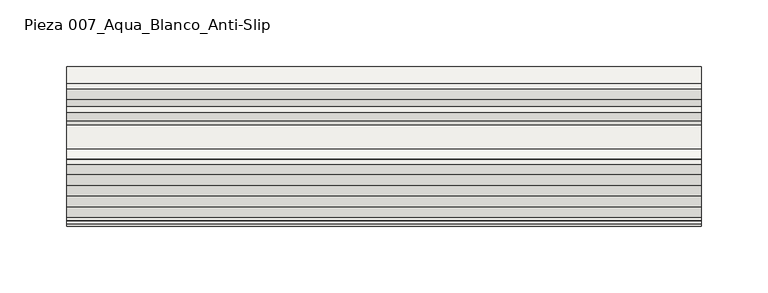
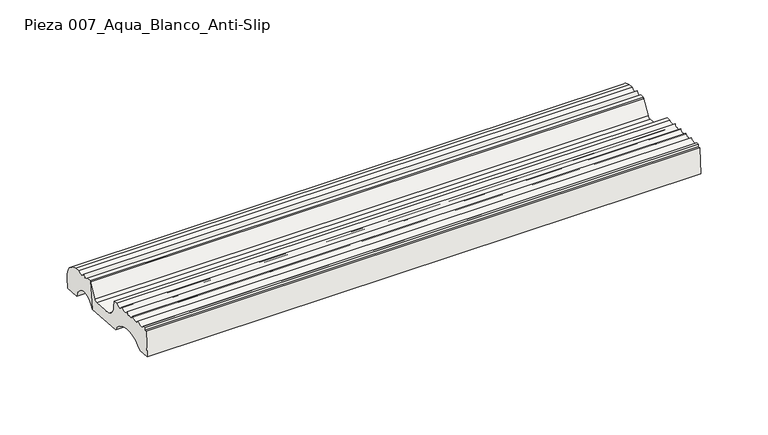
"""IFC4 building model written with IfcOpenShell, lengths in millimetres: slab geometry, ROSA GRES_007 : Pieza 007_Aqua_Blanco_Anti-Slip."""

from ifc_helpers import new_model, si_unit, point, frame, frame_2d, origin, place, context, project, spatial, polyline, circle_curve, trimmed, segment, composite_curve, outline, extrude, source, transform, mapped, element, save


def pieza_007_aqua_blanco_anti_slip_492b38b9(model_context):
    return source(origin(), model_context, "Body", "SweptSolid", [
        extrude(outline(composite_curve([segment(trimmed(circle_curve(frame_2d((-25.9545763, 173.0767428)), 11.6464304), [point((-14.3742659, 174.3159971))], [point((-37.1820416, 176.172444))], True, "CARTESIAN"), True, "CONTINUOUS"), segment(polyline([(-37.1820416, 176.172444), (-33.8762309, 200.4746837), (-29.9345538, 200.1538709)]), True, "CONTINUOUS"), segment(trimmed(circle_curve(frame_2d((-27.3971937, 201.142641)), 2.7232081), [point((-29.9345538, 200.1538709))], [point((-24.7247274, 200.6193952))], True, "CARTESIAN"), True, "CONTINUOUS"), segment(trimmed(circle_curve(frame_2d((-20.3008643, 202.7650351)), 4.9167404), [point((-24.7247274, 200.6193952))], [point((-16.9364731, 199.1796191))], True, "CARTESIAN"), True, "CONTINUOUS"), segment(polyline([(-16.9364731, 199.1796191), (-12.7748841, 198.875801)]), True, "CONTINUOUS"), segment(trimmed(circle_curve(frame_2d((-15.1536138, 183.7870899)), 15.2750633), [point((-12.7748841, 198.875801))], [point((0.0710994, 182.547869))], False, "CARTESIAN"), True, "CONTINUOUS"), segment(polyline([(0.0710994, 182.547869), (-0.6896004, 173.202129), (-14.3742659, 174.3159971)]), True, "CONTINUOUS")], self_intersect=False)), frame((0.0, 0.0, 0.0), z_axis=(1.0, 0.0, 0.0), x_axis=(0.0, 1.0, 0.0)), (0.0, 0.0, 1.0), 475.4755445),
        extrude(outline(composite_curve([segment(trimmed(circle_curve(frame_2d((-91.1625174, 167.3774726)), 22.5372595), [point((-71.8498608, 178.9942432))], [point((-108.342302, 181.9645582))], True, "CARTESIAN"), True, "CONTINUOUS"), segment(polyline([(-108.342302, 181.9645582), (-119.2900344, 182.8556525), (-117.4809059, 205.0820876), (-115.5338707, 204.9236084), (-115.3491545, 207.1930072), (-113.0660814, 207.0070959)]), True, "CONTINUOUS"), segment(trimmed(circle_curve(frame_2d((-109.1074243, 209.7932705)), 4.8408403), [point((-113.0660814, 207.0070959))], [point((-105.2742048, 206.836894))], True, "CARTESIAN"), True, "CONTINUOUS"), segment(trimmed(circle_curve(frame_2d((-100.9933064, 209.1504161)), 4.8660534), [point((-105.2742048, 206.836894))], [point((-97.1292049, 206.1928503))], True, "CARTESIAN"), True, "CONTINUOUS"), segment(trimmed(circle_curve(frame_2d((-92.9342908, 208.0451437)), 4.5856619), [point((-97.1292049, 206.1928503))], [point((-89.0833894, 205.555394))], True, "CARTESIAN"), True, "CONTINUOUS"), segment(trimmed(circle_curve(frame_2d((-84.8780848, 207.3839748)), 4.5856619), [point((-89.0833894, 205.555394))], [point((-81.0271834, 204.8942251))], True, "CARTESIAN"), True, "CONTINUOUS"), segment(trimmed(circle_curve(frame_2d((-76.8218788, 206.722806)), 4.5856619), [point((-81.0271834, 204.8942251))], [point((-73.3820924, 203.6902881))], True, "CARTESIAN"), True, "CONTINUOUS"), segment(polyline([(-73.3820924, 203.6902881), (-69.6579726, 203.3871621), (-69.3023399, 198.236672)]), True, "CONTINUOUS"), segment(trimmed(circle_curve(frame_2d((-57.0579989, 199.0821231)), 12.2734948), [point((-69.3023399, 198.236672))], [point((-61.867532, 187.7902205))], True, "CARTESIAN"), True, "CONTINUOUS"), segment(polyline([(-61.867532, 187.7902205), (-43.8250834, 186.3216491)]), True, "CONTINUOUS"), segment(trimmed(circle_curve(frame_2d((-43.5817022, 189.3117604)), 3.0), [point((-43.8250834, 186.3216491))], [point((-40.9402045, 187.8896178))], True, "CARTESIAN"), True, "CONTINUOUS"), segment(trimmed(circle_curve(frame_2d((-106.9597263, 233.2212806)), 80.084561), [point((-40.9402045, 187.8896178))], [point((-33.8762309, 200.4746837))], True, "CARTESIAN"), True, "CONTINUOUS"), segment(polyline([(-33.8762309, 200.4746837), (-37.1820416, 176.172444), (-71.8498608, 178.9942432)]), True, "CONTINUOUS")], self_intersect=False)), frame((0.0, 0.0, 0.0), z_axis=(1.0, 0.0, 0.0), x_axis=(0.0, 1.0, 0.0)), (0.0, 0.0, 1.0), 475.4755445),
    ])


if __name__ == "__main__":
    model = new_model("IFC4")
    model_context = context("Model", 3, world=origin())
    ifc_project = project(units=[si_unit("LENGTHUNIT", "METRE", prefix="MILLI")], contexts=[model_context])
    site = spatial("IfcSite", under=ifc_project)
    building = spatial("IfcBuilding", under=site)
    placement = place(None, origin())
    pieza_007_aqua_blanco_anti_slip_shape = pieza_007_aqua_blanco_anti_slip_492b38b9(model_context)
    element("IfcSlab", 1, ObjectType="ROSA GRES_007 : Pieza 007_Aqua_Blanco_Anti-Slip", at=placement, inside=building, context=model_context, shape_type="MappedRepresentation", body=[
        mapped(pieza_007_aqua_blanco_anti_slip_shape, transform((0.0, 0.0, 0.0), x_axis=(1.0, 0.0, 0.0), y_axis=(0.0, 1.0, 0.0), z_axis=(0.0, 0.0, 1.0))),
    ])
    save(model, "model.ifc")
